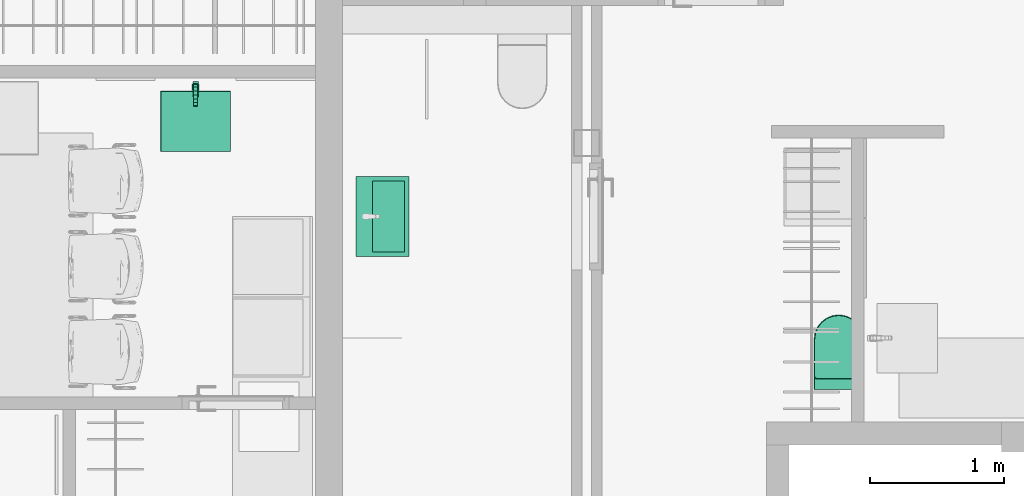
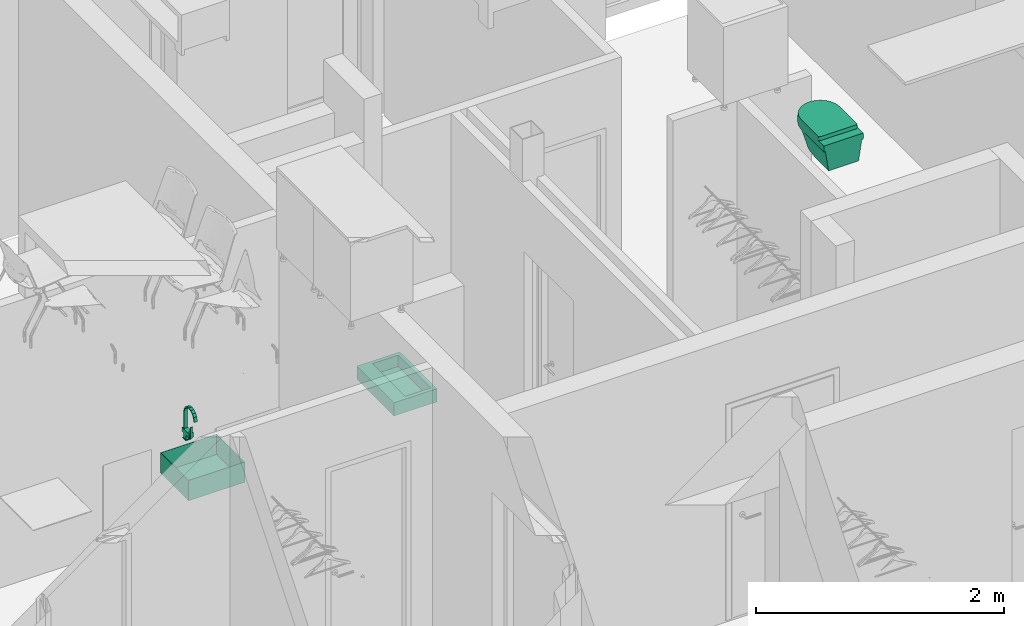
# One storey, part 19 of 68: 4 flow terminals.
"""IFC2X3 building model written with IfcOpenShell, lengths in millimetres."""

from ifc_helpers import new_model, entity, si_unit, converted_unit, direction, frame, origin, place, context, subcontext, project, spatial, faceted_brep, source, transform, mapped, material, type_object, type_shapes, element, save


model = new_model("IFC2X3")

# Units and contexts
model_context = context("Model", 3, precision=0.01, world=origin(), true_north=direction((6.123233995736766e-17, 1.0)))
plan_context = context("Plan", 3, precision=0.01, world=origin(), true_north=direction((6.123233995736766e-17, 1.0)))
body_context = subcontext(model_context, "Body", "Model", "MODEL_VIEW")
ifc_project = project(units=[si_unit("LENGTHUNIT", "METRE", prefix="MILLI"), converted_unit("PLANEANGLEUNIT", "DEGREE", entity("IfcPlaneAngleMeasure", 0.017453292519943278), si_unit("PLANEANGLEUNIT", "RADIAN"), dimensions=[0, 0, 0, 0, 0, 0, 0]), si_unit("AREAUNIT", "SQUARE_METRE")], contexts=[model_context, plan_context])

# Site, building, storey, space
site_placement = place(None, origin())
site = spatial("IfcSite", under=ifc_project, at=site_placement, Name="Default", CompositionType="ELEMENT")
building_placement = place(site_placement, origin())
building = spatial("IfcBuilding", under=site, at=building_placement, CompositionType="ELEMENT")
storey_placement = place(building_placement, frame((0.0, 0.0, 6295.0)))
storey = spatial("IfcBuildingStorey", under=building, at=storey_placement, Name="3K", CompositionType="ELEMENT", Elevation=6294.999999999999)
space_1_placement = place(storey_placement, origin())
space_1 = spatial("IfcSpace", under=storey, at=space_1_placement, Name="3-6.1", CompositionType="ELEMENT", InteriorOrExteriorSpace="INTERNAL")

# Flow terminal
ifc_material = material(Name="<Unnamed>")
distribution_element_type_1 = type_object("IfcDistributionElementType", Name="HR_Plumbing-fixtures_Toilet_Generic_v3:Default", material=ifc_material)
shared_shape_1 = source(origin(), body_context, "Body", "Brep", [
    faceted_brep([(185.0, 375.0, -3940.0), (185.0, 100.0, -3940.0), (184.31851652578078, 94.82361909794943, -3940.0), (182.32050807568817, 90.0, -3940.0), (179.14213562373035, 85.85786437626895, -3940.0), (175.0, 82.67949192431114, -3940.0), (170.17638090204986, 80.68148347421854, -3940.0), (165.0, 80.0, -3940.0), (-165.0, 80.0, -3940.0), (-170.17638090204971, 80.68148347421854, -3940.0), (-175.0, 82.67949192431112, -3940.0), (-179.14213562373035, 85.85786437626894, -3940.0), (-182.32050807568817, 90.0, -3940.0), (-184.31851652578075, 94.82361909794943, -3940.0), (-185.0, 100.0, -3940.0), (-185.0, 375.0, -3940.0), (-178.6962778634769, 422.8815233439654, -3940.0), (-160.21469970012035, 467.49999999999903, -3940.0), (-130.81475451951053, 505.81475451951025, -3940.0), (-92.4999999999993, 535.21469970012, -3940.0), (-47.8815233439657, 553.6962778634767, -3940.0), (0.0, 560.0, -3940.0), (47.88152334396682, 553.6962778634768, -3940.0), (92.50000000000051, 535.2146997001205, -3940.0), (130.81475451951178, 505.8147545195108, -3940.0), (160.2146997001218, 467.4999999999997, -3940.0), (178.69627786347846, 422.8815233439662, -3940.0), (165.0, 85.0, -3905.0), (168.88228567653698, 85.51111260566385, -3905.0), (172.4999999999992, 87.00961894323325, -3905.0), (175.60660171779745, 89.39339828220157, -3905.0), (177.99038105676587, 92.49999999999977, -3905.0), (179.48888739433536, 96.11771432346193, -3905.0), (180.0, 100.0, -3905.0), (180.0, 375.0, -3905.0), (173.86664873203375, 421.5874281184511, -3905.0), (155.88457268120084, 465.0, -3905.0), (127.27922061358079, 502.27922061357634, -3905.0), (90.0, 530.884572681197, -3905.0), (46.58742811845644, 548.8666487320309, -3905.0), (0.0, 555.0, -3905.0), (-46.58742811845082, 548.8666487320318, -3905.0), (-90.0, 530.8845726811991, -3905.0), (-127.27922061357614, 502.2792206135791, -3905.0), (-155.88457268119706, 465.0, -3905.0), (-173.8666487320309, 421.58742811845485, -3905.0), (-180.0, 375.0, -3905.0), (-180.0, 100.0, -3905.0), (-179.4888873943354, 96.11771432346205, -3905.0), (-177.99038105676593, 92.49999999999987, -3905.0), (-175.6066017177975, 89.39339828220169, -3905.0), (-172.49999999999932, 87.00961894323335, -3905.0), (-168.88228567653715, 85.51111260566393, -3905.0), (-165.0, 85.0, -3905.0)], [[[0, 1, 2, 3, 4, 5, 6, 7, 8, 9, 10, 11, 12, 13, 14, 15, 16, 17, 18, 19, 20, 21, 22, 23, 24, 25, 26]], [[27, 28, 29, 30, 31, 32, 33, 34, 35, 36, 37, 38, 39, 40, 41, 42, 43, 44, 45, 46, 47, 48, 49, 50, 51, 52, 53]], [[13, 48, 47, 14]], [[49, 12, 11, 50]], [[48, 13, 12, 49]], [[52, 51, 10, 9]], [[53, 52, 9, 8]], [[10, 51, 50, 11]], [[7, 27, 53, 8]], [[6, 28, 27, 7]], [[29, 5, 4, 30]], [[28, 6, 5, 29]], [[32, 31, 3, 2]], [[33, 32, 2, 1]], [[3, 31, 30, 4]], [[0, 34, 33, 1]], [[34, 0, 26, 35]], [[35, 26, 25, 36]], [[38, 37, 24, 23]], [[24, 37, 36, 25]], [[39, 38, 23, 22]], [[39, 22, 21, 40]], [[20, 41, 40, 21]], [[45, 44, 17, 16]], [[43, 18, 17, 44]], [[45, 16, 15, 46]], [[19, 42, 41, 20]], [[19, 18, 43, 42]], [[47, 46, 15, 14]]]),
    faceted_brep([(158.04963619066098, 466.24999999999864, -4000.0), (176.28146329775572, 422.2344757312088, -4000.0), (182.5000000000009, 375.0, -4000.0), (182.5000000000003, 0.0, -4000.0), (-182.49999999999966, 0.0, -4000.0), (-182.49999999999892, 375.0, -4000.0), (-176.2814632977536, 422.23447573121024, -4000.0), (-158.04963619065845, 466.25, -4000.0), (-129.04698756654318, 504.0469875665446, -4000.0), (-91.2499999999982, 533.0496361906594, -4000.0), (-47.23447573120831, 551.281463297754, -4000.0), (0.0, 557.4999999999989, -4000.0), (47.23447573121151, 551.2814632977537, -4000.0), (91.25000000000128, 533.0496361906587, -4000.0), (129.04698756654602, 504.0469875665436, -4000.0), (-176.28146329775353, 422.23447573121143, -3940.0), (-182.49999999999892, 375.0, -3940.0), (-182.49999999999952, 0.0, -3940.0), (182.50000000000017, 0.0, -3940.0), (182.50000000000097, 375.0, -3940.0), (176.2814632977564, 422.23447573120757, -3940.0), (158.04963619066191, 466.24999999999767, -3940.0), (129.04698756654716, 504.04698756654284, -3940.0), (91.25000000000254, 533.0496361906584, -3940.0), (47.23447573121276, 551.2814632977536, -3940.0), (0.0, 557.4999999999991, -3940.0), (-47.23447573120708, 551.2814632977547, -3940.0), (-91.24999999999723, 533.0496361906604, -3940.0), (-129.04698756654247, 504.0469875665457, -3940.0), (-158.0496361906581, 466.25000000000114, -3940.0), (184.3739186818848, 0.0, -3985.051993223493), (185.0, 0.0, -3970.0), (184.37391868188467, 0.0, -3954.9480067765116), (-184.37391868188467, 0.0, -3954.9480067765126), (-185.0, 0.0, -3970.0), (-184.37391868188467, 0.0, -3985.051993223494), (185.0, 375.0, -3970.0), (184.37391868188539, 375.0, -3954.9480067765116), (184.37391868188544, 375.0, -3985.051993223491), (179.22193525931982, 420.2391964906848, -3962.467496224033), (146.12425609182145, 487.1250848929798, -3987.162723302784), (112.36452390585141, 521.4362980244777, -3982.347722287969), (-24.092382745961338, 557.9998161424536, -3957.652277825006), (-70.79643453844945, 545.9177137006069, -3969.999999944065), (165.88140661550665, 456.6493815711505, -3963.605381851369), (170.61476036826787, 445.67094705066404, -3980.89777177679), (146.7703673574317, 487.6208651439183, -3969.999999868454), (112.4934291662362, 521.6042920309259, -3961.29138681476), (70.79643457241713, 545.9177136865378, -3969.9999999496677), (-170.6147602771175, 445.67094700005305, -3980.8977734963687), (-146.12425609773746, 487.12508488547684, -3987.1627233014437), (70.4847752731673, 545.1653000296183, -3987.16272333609), (24.092382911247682, 557.9998161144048, -3982.3477222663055), (-146.77036734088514, 487.62086516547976, -3969.999999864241), (-165.88140640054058, 456.6493822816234, -3963.605385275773), (24.120021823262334, 558.2097557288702, -3961.2913867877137), (-24.120022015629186, 558.20975569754, -3978.7086133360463), (180.8695297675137, 411.23491834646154, -3983.9362692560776), (-112.36452329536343, 521.4362985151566, -3957.652277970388), (-112.4934298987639, 521.6042914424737, -3978.708613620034), (-70.48477528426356, 545.1653000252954, -3987.1627233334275), (-184.3739188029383, 375.0, -3954.948008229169), (-179.2219343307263, 420.239200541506, -3962.4674984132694), (-185.0, 375.0, -3970.0000029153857), (-184.3739185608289, 375.0, -3985.0519946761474), (-181.40133300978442, 410.0856400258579, -3979.2616608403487)], [[[0, 1, 2, 3, 4, 5, 6, 7, 8, 9, 10, 11, 12, 13, 14]], [[15, 16, 17, 18, 19, 20, 21, 22, 23, 24, 25, 26, 27, 28, 29]], [[4, 3, 30, 31, 32, 18, 17, 33, 34, 35]], [[32, 31, 36, 37]], [[32, 37, 19, 18]], [[30, 3, 2, 38]], [[30, 38, 36, 31]], [[37, 39, 20]], [[40, 14, 41]], [[20, 19, 37]], [[26, 42, 43]], [[44, 45, 46]], [[47, 41, 48]], [[48, 24, 23]], [[7, 49, 50]], [[47, 22, 46]], [[51, 12, 52]], [[21, 46, 22]], [[53, 49, 54]], [[55, 52, 56]], [[48, 52, 55]], [[36, 57, 39]], [[28, 58, 53]], [[11, 10, 56]], [[57, 38, 2]], [[37, 36, 39]], [[59, 58, 43]], [[7, 6, 49]], [[14, 13, 41]], [[12, 51, 13]], [[45, 57, 1]], [[14, 40, 0]], [[45, 1, 0]], [[47, 46, 41]], [[39, 57, 45]], [[24, 48, 55]], [[56, 42, 55]], [[26, 43, 27]], [[39, 45, 44]], [[58, 28, 27]], [[9, 59, 60]], [[27, 43, 58]], [[28, 53, 29]], [[61, 16, 15]], [[11, 56, 52]], [[61, 62, 63]], [[47, 48, 23]], [[41, 51, 48]], [[15, 54, 62]], [[42, 25, 55]], [[62, 61, 15]], [[64, 63, 65]], [[56, 60, 43]], [[55, 25, 24]], [[50, 53, 59]], [[60, 10, 9]], [[47, 23, 22]], [[62, 49, 65]], [[7, 50, 8]], [[49, 62, 54]], [[64, 6, 5]], [[42, 26, 25]], [[58, 59, 53]], [[49, 6, 65]], [[44, 21, 20]], [[11, 52, 12]], [[42, 56, 43]], [[46, 45, 40]], [[59, 9, 8]], [[39, 44, 20]], [[44, 46, 21]], [[54, 29, 53]], [[29, 54, 15]], [[13, 51, 41]], [[48, 51, 52]], [[0, 40, 45]], [[46, 40, 41]], [[10, 60, 56]], [[43, 60, 59]], [[8, 50, 59]], [[53, 50, 49]], [[1, 57, 2]], [[36, 38, 57]], [[62, 65, 63]], [[64, 65, 6]], [[16, 61, 33]], [[16, 33, 17]], [[33, 61, 34]], [[61, 63, 34]], [[64, 5, 4]], [[64, 35, 63]], [[35, 64, 4]], [[63, 35, 34]]]),
    faceted_brep([(85.0, 522.224318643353, -4000.0), (43.99923766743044, 539.2073904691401, -4000.0), (0.0, 545.0, -4000.0), (-43.99923766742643, 539.2073904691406, -4000.0), (-85.0, 522.2243186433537, -4000.0), (-120.20815280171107, 495.2081528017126, -4000.0), (-147.22431864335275, 460.0, -4000.0), (-164.20739046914, 418.9992376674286, -4000.0), (-170.0, 375.0, -4000.0), (-170.0, 0.0, -4000.0), (170.0, 0.0, -4000.0), (170.0, 375.0, -4000.0), (164.2073904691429, 418.99923766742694, -4000.0), (147.224318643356, 460.0, -4000.0), (120.20815280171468, 495.20815280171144, -4000.0), (140.0, 0.0, -4200.0), (-140.0, 0.0, -4200.0), (-140.0, 150.0, -4200.0), (-138.62980634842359, 195.25787346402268, -4200.0), (-137.25961308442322, 240.51573412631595, -4200.0), (-133.15405183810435, 285.6078202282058, -4200.0), (-129.04849039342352, 330.69990850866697, -4200.0), (-121.54313718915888, 361.12229181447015, -4200.0), (-106.97640292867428, 388.86507440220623, -4200.0), (-86.1945818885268, 412.3164634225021, -4200.0), (-60.40505081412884, 430.11398627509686, -4200.0), (-31.106123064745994, 441.2236471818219, -4200.0), (0.0, 445.0, -4200.0), (31.106123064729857, 441.2236471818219, -4200.0), (60.40505081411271, 430.1139862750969, -4200.0), (86.19458188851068, 412.3164634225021, -4200.0), (106.97640292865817, 388.86507440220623, -4200.0), (121.54313718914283, 361.12229181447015, -4200.0), (129.04849039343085, 330.69990850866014, -4200.0), (133.15405231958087, 285.60781494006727, -4200.0), (137.25961308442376, 240.51573412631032, -4200.0), (138.629806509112, 195.25786815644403, -4200.0), (140.0, 150.0, -4200.0), (150.60660238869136, 229.54951791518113, -4129.289317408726), (160.30330119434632, 302.2747589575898, -4064.6446587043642), (155.52145288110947, 359.3375502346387, -4070.710688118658), (143.52703751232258, 346.36235827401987, -4129.289311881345), (155.38792293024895, 359.1931016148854, -4071.362825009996), (136.07910358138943, 407.7451780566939, -4100.000018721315), (144.4628484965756, 378.65444268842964, -4105.413468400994), (88.6637225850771, 465.93257853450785, -4100.000001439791), (116.08235687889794, 439.8543237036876, -4100.000003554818), (-146.76963007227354, 381.58655237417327, -4094.5865394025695), (-136.0791098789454, 407.7451788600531, -4100.000000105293), (-143.66056550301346, 346.5068047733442, -4128.637184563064), (-156.76351819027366, 360.6811785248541, -4064.644658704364), (55.573859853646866, 484.30716171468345, -4100.000000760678), (18.928354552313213, 493.79904274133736, -4099.999999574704), (-55.573860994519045, 484.3071615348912, -4100.00000022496), (-18.928355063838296, 493.79904230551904, -4100.000000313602), (-143.52703638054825, 346.36235704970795, -4129.289317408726), (-88.66372427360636, 465.9325779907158, -4100.000000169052), (-116.08235986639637, 439.8543221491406, -4100.000000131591), (-159.3933967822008, 295.45047586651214, -4070.7106881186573), (-150.6066032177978, 229.54952413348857, -4129.2893118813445)], [[[0, 1, 2, 3, 4, 5, 6, 7, 8, 9, 10, 11, 12, 13, 14]], [[15, 16, 17, 18, 19, 20, 21, 22, 23, 24, 25, 26, 27, 28, 29, 30, 31, 32, 33, 34, 35, 36, 37]], [[10, 15, 37, 38, 39, 11]], [[36, 35, 39, 38, 37]], [[39, 40, 11]], [[35, 40, 39]], [[34, 33, 41, 42, 40, 35]], [[13, 12, 43]], [[32, 44, 33]], [[32, 31, 43]], [[44, 12, 42]], [[45, 30, 29]], [[45, 46, 30]], [[22, 47, 48]], [[30, 46, 31]], [[47, 49, 50, 8]], [[28, 51, 29]], [[46, 43, 31]], [[43, 44, 32]], [[12, 11, 40, 42]], [[51, 45, 29]], [[14, 45, 0]], [[13, 43, 46]], [[28, 27, 52]], [[14, 46, 45]], [[45, 51, 0]], [[0, 51, 1]], [[1, 51, 52]], [[52, 51, 28]], [[52, 2, 1]], [[13, 46, 14]], [[53, 26, 25]], [[2, 54, 3]], [[22, 21, 55, 49]], [[24, 56, 25]], [[48, 23, 22]], [[5, 57, 6]], [[48, 57, 23]], [[24, 23, 57]], [[47, 7, 48]], [[8, 7, 47]], [[26, 54, 27]], [[3, 54, 53]], [[56, 53, 25]], [[2, 52, 54]], [[57, 56, 24]], [[4, 53, 56]], [[22, 49, 47]], [[5, 56, 57]], [[57, 48, 6]], [[4, 56, 5]], [[53, 54, 26]], [[3, 53, 4]], [[6, 48, 7]], [[12, 44, 43]], [[44, 42, 41, 33]], [[54, 52, 27]], [[20, 19, 50, 49, 55, 21]], [[50, 58, 8]], [[19, 58, 50]], [[18, 17, 59, 58, 19]], [[9, 8, 58, 59, 17, 16]], [[9, 16, 15, 10]]]),
])
type_shapes(distribution_element_type_1, [shared_shape_1])
flow_terminal_1_placement = place(space_1_placement, frame((7062.0, 8853.0, 7475.000076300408)))
element("IfcFlowTerminal", 1, at=flow_terminal_1_placement, inside=space_1, type_object=distribution_element_type_1, material=ifc_material, Name="HR_Plumbing-fixtures_Toilet_Generic_v3:Default", ObjectType="HR_Plumbing-fixtures_Toilet_Generic_v3:Default", context=body_context, shape_type="MappedRepresentation", body=[
    mapped(shared_shape_1, transform((0.0, 0.0, 0.0), scale=1.0)),
])

# Space
space_2_placement = place(storey_placement, origin())
space_2 = spatial("IfcSpace", under=storey, at=space_2_placement, Name="3-5.2", CompositionType="ELEMENT", InteriorOrExteriorSpace="INTERNAL")

# Flow terminals
distribution_element_type_2 = type_object("IfcDistributionElementType", Name="HR_Plumbing-fixtures_Sink_Generic_Kitchen_v1:Default", material=ifc_material)
shared_shape_2 = source(origin(), body_context, "Body", "Brep", [
    faceted_brep([(260.0, -50.0, -3825.0), (260.0, -500.0, -3825.0), (-260.0, -500.0, -3825.0), (-260.0, -50.0, -3825.0), (262.0, -48.0, -3825.0), (-262.0, -48.0, -3825.0), (-262.0, -502.0, -3825.0), (262.0, -502.0, -3825.0), (262.0, -48.0, -4025.0), (262.0, -502.0, -4025.0), (-262.0, -502.0, -4025.0), (-262.0, -48.0, -4025.0), (260.0, -50.0, -4023.0), (260.0, -500.0, -4023.0), (-260.0, -500.0, -4023.0), (-260.0, -50.0, -4023.0)], [[[0, 1, 2, 3], [4, 5, 6, 7]], [[8, 9, 10, 11]], [[1, 0, 12, 13]], [[2, 1, 13, 14]], [[3, 2, 14, 15]], [[0, 3, 15, 12]], [[5, 4, 8, 11]], [[6, 5, 11, 10]], [[7, 6, 10, 9]], [[4, 7, 9, 8]], [[13, 12, 15, 14]]], outer=[[False, True], [True], [True], [True], [True], [True], [True], [True], [True], [True], [True]]),
])
type_shapes(distribution_element_type_2, [shared_shape_2])
flow_terminal_2_placement = place(space_2_placement, frame((2244.993534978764, 10587.0, 4695.0), z_axis=(0.0, 0.0, 1.0), x_axis=(-1.0, 0.0, 0.0)))
element("IfcFlowTerminal", 2, at=flow_terminal_2_placement, inside=space_2, type_object=distribution_element_type_2, material=ifc_material, Name="HR_Plumbing-fixtures_Sink_Generic_Kitchen_v1:Default", ObjectType="HR_Plumbing-fixtures_Sink_Generic_Kitchen_v1:Default", context=body_context, shape_type="MappedRepresentation", body=[
    mapped(shared_shape_2, transform((0.0, 0.0, 0.0), scale=1.0)),
])
distribution_element_type_3 = type_object("IfcDistributionElementType", Name="HR_Plumbing-fixtures_Faucet_Generic_v1:Default", material=ifc_material)
shared_shape_3 = source(origin(), body_context, "Body", "Brep", [
    faceted_brep([(-21.0, 45.0, 93.0), (21.0, 45.0, 93.0), (21.0, 71.0, 93.0), (11.500000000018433, 71.0, 93.0), (11.50000000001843, 68.0, 93.0), (-11.49999999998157, 68.0, 93.0), (-11.499999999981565, 71.0, 93.0), (-21.0, 71.0, 93.0), (-21.0, 45.0, 52.0), (-21.0, 71.0, 52.0), (-11.499999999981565, 71.0, 52.0), (-11.49999999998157, 68.0, 52.0), (11.50000000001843, 68.0, 52.0), (11.500000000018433, 71.0, 52.0), (21.0, 71.0, 52.0), (21.0, 45.0, 52.0), (-11.499999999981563, 74.0, 155.0), (-11.499999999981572, 68.0, 155.0), (11.500000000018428, 68.0, 155.0), (11.500000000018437, 74.0, 155.0), (-11.499999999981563, 74.0, 47.0), (11.500000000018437, 74.0, 47.0), (11.500000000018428, 68.0, 47.0), (-11.499999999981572, 68.0, 47.0)], [[[0, 1, 2, 3, 4, 5, 6, 7]], [[8, 9, 10, 11, 12, 13, 14, 15]], [[1, 0, 8, 15]], [[2, 1, 15, 14]], [[2, 14, 13, 3]], [[0, 7, 9, 8]], [[16, 17, 18, 19]], [[20, 21, 22, 23]], [[17, 16, 20, 23, 11, 10, 6, 5]], [[18, 17, 5, 4]], [[19, 18, 4, 3, 13, 12, 22, 21]], [[16, 19, 21, 20]], [[23, 22, 12, 11]], [[9, 7, 6, 10]]]),
    faceted_brep([(15.0, -28.2999999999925, 93.0), (-15.0, -28.299999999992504, 93.0), (-15.0, -18.299999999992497, 93.0), (15.0, -18.299999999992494, 93.0), (15.0, -28.299999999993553, 262.91444034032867), (-15.0, -28.29999999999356, 262.9144403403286), (-15.0, -18.29999999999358, 262.49427421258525), (15.0, -18.299999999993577, 262.49427421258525), (15.0, -24.100059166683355, 278.21407775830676), (15.0, -19.900118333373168, 293.51371517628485), (-15.0, -19.900118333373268, 293.5137151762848), (-15.0, -24.100059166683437, 278.2140777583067), (-15.0, -0.9291565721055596, 318.9494428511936), (-15.0, -10.414637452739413, 306.2315790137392), (15.0, -10.414637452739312, 306.23157901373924), (15.0, -0.9291565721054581, 318.9494428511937), (15.0, 142.33160759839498, 262.51576689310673), (-15.0, 142.33160759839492, 262.51576689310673), (-15.0, 138.20320612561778, 277.83486312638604), (-15.0, 134.07480465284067, 293.15395935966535), (15.0, 134.07480465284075, 293.15395935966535), (15.0, 138.20320612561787, 277.83486312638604), (-15.0, 26.005040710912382, 335.7250992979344), (-15.0, 12.537942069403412, 327.337271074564), (15.0, 12.537942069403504, 327.337271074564), (15.0, 26.005040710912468, 335.7250992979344), (-15.0, 57.19996222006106, 341.5346177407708), (-15.0, 41.60250146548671, 338.6298585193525), (15.0, 41.60250146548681, 338.62985851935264), (15.0, 57.19996222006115, 341.5346177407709), (-15.0, 88.36739590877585, 335.5793923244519), (-15.0, 72.78367906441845, 338.55700503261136), (15.0, 72.78367906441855, 338.55700503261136), (15.0, 88.36739590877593, 335.5793923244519), (-15.0, 124.64885649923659, 305.9160089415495), (-15.0, 115.22290834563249, 318.67805852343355), (15.0, 115.22290834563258, 318.67805852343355), (15.0, 124.64885649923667, 305.9160089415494), (-15.0, 101.79515212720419, 327.1287254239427), (15.0, 101.79515212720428, 327.1287254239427), (-15.0, 142.3316075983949, 249.0), (-15.0, 132.33160759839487, 249.0), (-15.0, 132.3316075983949, 262.11973222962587), (-15.0, 128.64003790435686, 275.58767371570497), (-15.0, 124.94846821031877, 289.05561520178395), (-15.0, 116.61798076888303, 300.2634746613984), (-15.0, 108.28749332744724, 311.4713341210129), (-15.0, 96.45555148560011, 318.88876541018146), (-15.0, 84.623609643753, 326.30619669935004), (-15.0, 70.90577314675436, 328.9204071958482), (-15.0, 57.187936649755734, 331.53461769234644), (-15.0, 43.457269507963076, 328.98865726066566), (-15.0, 29.726602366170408, 326.4426968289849), (-15.0, 17.85792051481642, 319.08419658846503), (-15.0, 5.989238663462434, 311.72569634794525), (-15.0, -2.3968815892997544, 300.55940234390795), (-15.0, -10.783001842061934, 289.3931083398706), (-15.0, -14.541500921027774, 275.9436912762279), (15.0, -10.783001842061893, 289.3931083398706), (15.0, -14.541500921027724, 275.9436912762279), (15.0, 5.989238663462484, 311.7256963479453), (15.0, -2.396881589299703, 300.55940234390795), (15.0, 116.61798076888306, 300.2634746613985), (15.0, 108.28749332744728, 311.47133412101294), (15.0, 124.94846821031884, 289.05561520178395), (15.0, 29.726602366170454, 326.4426968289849), (15.0, 17.857920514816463, 319.08419658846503), (15.0, 57.187936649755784, 331.53461769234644), (15.0, 43.45726950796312, 328.98865726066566), (15.0, 84.62360964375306, 326.30619669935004), (15.0, 70.90577314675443, 328.9204071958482), (15.0, 127.94606568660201, 278.11949025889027), (15.0, 132.33160759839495, 262.11973222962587), (15.0, 96.45555148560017, 318.88876541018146), (15.0, 132.33160759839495, 249.0), (15.0, 142.33160759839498, 249.0)], [[[0, 1, 2, 3]], [[1, 0, 4, 5]], [[3, 2, 6, 7]], [[4, 8, 9, 10, 11, 5]], [[12, 13, 10, 9, 14, 15]], [[16, 17, 18, 19, 20, 21]], [[22, 23, 12, 15, 24, 25]], [[26, 27, 22, 25, 28, 29]], [[30, 31, 26, 29, 32, 33]], [[34, 35, 36, 37, 20, 19]], [[35, 38, 30, 33, 39, 36]], [[17, 40, 41, 42, 43, 44, 45, 46, 47, 48, 49, 50, 51, 52, 53, 54, 55, 56, 57, 6, 2, 1, 5, 11, 10, 13, 12, 23, 22, 27, 26, 31, 30, 38, 35, 34, 19, 18]], [[6, 57, 56, 58, 59, 7]], [[60, 61, 58, 56, 55, 54]], [[62, 63, 46, 45, 44, 64]], [[65, 66, 60, 54, 53, 52]], [[65, 52, 51, 50, 67, 68]], [[69, 70, 67, 50, 49, 48]], [[71, 64, 44, 43, 42, 72]], [[47, 46, 63, 73, 69, 48]], [[72, 74, 75, 16, 21, 20, 37, 36, 39, 33, 32, 29, 28, 25, 24, 15, 14, 9, 8, 4, 0, 3, 7, 59, 58, 61, 60, 66, 65, 68, 67, 70, 69, 73, 63, 62, 64, 71]], [[41, 40, 75, 74]], [[17, 16, 75, 40]], [[72, 42, 41, 74]]]),
    faceted_brep([(-21.0, -43.0, 93.0), (21.0, -43.0, 93.0), (21.0, 43.0, 93.0), (-21.0, 43.0, 93.0), (-21.0, -43.0, 52.0), (-21.0, 43.0, 52.0), (21.0, 43.0, 52.0), (21.0, -43.0, 52.0)], [[[0, 1, 2, 3]], [[4, 5, 6, 7]], [[1, 0, 4, 7]], [[2, 1, 7, 6]], [[3, 2, 6, 5]], [[0, 3, 5, 4]]]),
    faceted_brep([(21.0, -21.0, 52.0), (21.0, 21.0, 52.0), (-21.0, 21.0, 52.0), (-21.0, -21.0, 52.0), (21.0, -21.0, 7.0), (-21.0, -21.0, 7.0), (-21.0, 21.0, 7.0), (21.0, 21.0, 7.0)], [[[0, 1, 2, 3]], [[4, 5, 6, 7]], [[1, 0, 4, 7]], [[2, 1, 7, 6]], [[3, 2, 6, 5]], [[0, 3, 5, 4]]]),
    faceted_brep([(-25.0, 25.0, 7.0), (-25.0, -25.0, 7.0), (25.0, -25.0, 7.0), (25.0, 25.0, 7.0), (-25.0, 25.0, 0.0), (25.0, 25.0, 0.0), (25.0, -25.0, 0.0), (-25.0, -25.0, 0.0)], [[[0, 1, 2, 3]], [[4, 5, 6, 7]], [[1, 0, 4, 7]], [[2, 1, 7, 6]], [[3, 2, 6, 5]], [[0, 3, 5, 4]]]),
])
type_shapes(distribution_element_type_3, [shared_shape_3])
flow_terminal_3_placement = place(space_2_placement, frame((2244.99353497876, 11117.0, 900.0), z_axis=(0.0, 0.0, 1.0), x_axis=(-1.0, 0.0, 0.0)))
element("IfcFlowTerminal", 3, at=flow_terminal_3_placement, inside=space_2, type_object=distribution_element_type_3, material=ifc_material, Name="HR_Plumbing-fixtures_Faucet_Generic_v1:Default", ObjectType="HR_Plumbing-fixtures_Faucet_Generic_v1:Default", context=body_context, shape_type="MappedRepresentation", body=[
    mapped(shared_shape_3, transform((0.0, 0.0, 0.0), scale=1.0)),
])

# Space
space_3_placement = place(storey_placement, origin())
space_3 = spatial("IfcSpace", under=storey, at=space_3_placement, Name="3-6.4", CompositionType="ELEMENT", InteriorOrExteriorSpace="INTERNAL")

# Flow terminal
distribution_element_type_4 = type_object("IfcDistributionElementType", Name="HR_Plumbing-fixtures_Sink_Generic_Bathroom_v1:600 x 400 mm", material=ifc_material)
shared_shape_4 = source(origin(), body_context, "Body", "Brep", [
    faceted_brep([(300.0, 0.0, -3325.0), (-300.0, 0.0, -3325.0), (-300.0, -400.0, -3325.0), (300.0, -400.0, -3325.0), (-265.0, -125.0, -3325.0), (265.0, -125.0, -3325.0), (265.0, -365.0, -3325.0), (-265.0, -365.0, -3325.0), (300.0, 0.0, -3455.0), (300.0, -400.0, -3455.0), (-300.0, -400.0, -3455.0), (-300.0, 0.0, -3455.0), (265.0, -125.0, -3435.0), (-265.0, -125.0, -3435.0), (-265.0, -365.0, -3435.0), (265.0, -365.0, -3435.0)], [[[0, 1, 2, 3], [4, 5, 6, 7]], [[8, 9, 10, 11]], [[1, 0, 8, 11]], [[2, 1, 11, 10]], [[3, 2, 10, 9]], [[0, 3, 9, 8]], [[12, 13, 14, 15]], [[13, 12, 5, 4]], [[14, 13, 4, 7]], [[15, 14, 7, 6]], [[12, 15, 6, 5]]]),
])
type_shapes(distribution_element_type_4, [shared_shape_4])
flow_terminal_4_placement = place(space_3_placement, frame((3444.993534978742, 10150.0, 4925.0), z_axis=(0.0, 0.0, 1.0), x_axis=(0.0, 1.0, 0.0)))
element("IfcFlowTerminal", 4, at=flow_terminal_4_placement, inside=space_3, type_object=distribution_element_type_4, material=ifc_material, Name="HR_Plumbing-fixtures_Sink_Generic_Bathroom_v1:600 x 400 mm", ObjectType="HR_Plumbing-fixtures_Sink_Generic_Bathroom_v1:600 x 400 mm", context=body_context, shape_type="MappedRepresentation", body=[
    mapped(shared_shape_4, transform((0.0, 0.0, 0.0), scale=1.0)),
])

save(model, "model.ifc")
